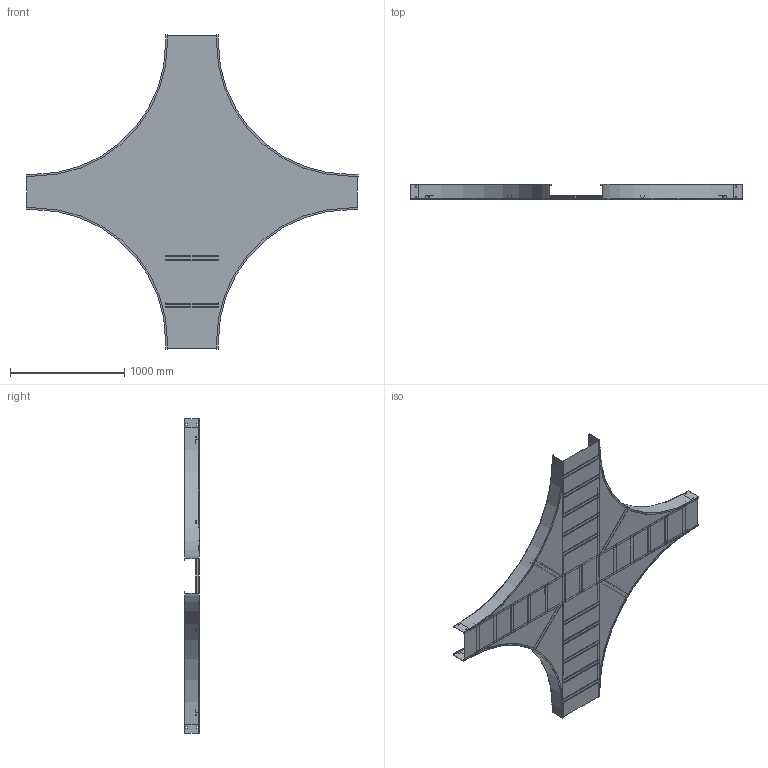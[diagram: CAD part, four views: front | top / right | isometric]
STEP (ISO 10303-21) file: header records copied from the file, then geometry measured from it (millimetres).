
FILE_DESCRIPTION((''),'2;1');
FILE_NAME('AUF51218SEX48_ASM','2010-02-02T',('erouzier'),(''),'PRO/ENGINEER BY PARAMETRIC TECHNOLOGY CORPORATION, 2008510','PRO/ENGINEER BY PARAMETRIC TECHNOLOGY CORPORATION, 2008510','');
FILE_SCHEMA(('CONFIG_CONTROL_DESIGN'));
Length unit declared in the file: inch
Products named in the file (27): CDS001320-5-90-45-I; CDS002159L12_AF19; CDS002159L12_AF20; CDS002159L12_AF21; CDS002159L12_AF22; CDS002159L12_AF28; CDS002159L12_AF30; CDS002159L12_AF23; CDS002159L12_AF24; CDS002159L12_AF25; CDS002159L12_AF27; CDS002159L12_AF29; CDS002159L12_AF31; CDS002159L12_AF26; CDS000495_GEN_AF18; CDS000495_GEN_AF19; CDS000495_GEN_AF22; CDS000495_GEN_AF23; CDS000495_GEN_AF20; CDS000495_GEN_AF21; CDS002159L24_AF6; CDS002159L24_AF7; CDS002159L24_AF4; CDS002159L24_AF5; CDS002159L18; CDS005034-12-48-18; AUF51218SEX48_ASM
Assembly tree (38 placements, depth 2):
  AUF51218SEX48_ASM
    CDS001320-5-90-45-I  x4
    CDS002159L12_AF19
    CDS002159L12_AF20
    CDS002159L12_AF21
    CDS002159L12_AF22
    CDS002159L12_AF28
    CDS002159L12_AF30
    CDS002159L12_AF23
    CDS002159L12_AF24
    CDS002159L12_AF25
    CDS002159L12_AF27
    CDS002159L12_AF29
    CDS002159L12_AF31
    CDS002159L12_AF26
    CDS000495_GEN_AF18
    CDS000495_GEN_AF19
    CDS000495_GEN_AF22
    CDS000495_GEN_AF23
    CDS000495_GEN_AF20
    CDS000495_GEN_AF21
    CDS002159L24_AF6
    CDS002159L24_AF7
    CDS002159L24_AF4
    CDS002159L24_AF5
    CDS002159L18  x10
    CDS005034-12-48-18
Bounding box: 2900.68 x 129.03 x 2748.28 mm (x, y, z)
Volume: 9001931 mm3; surface area: 12439813.5 mm2
Topology: 38 solids, 38 shells, 1024 faces, 2844 edges, 1896 vertices
Faces by surface type: plane 707, cylinder 317
Entity records: 21662 total; most frequent: CARTESIAN_POINT 4029, ORIENTED_EDGE 3600, DIRECTION 3558, EDGE_CURVE 1800, VECTOR 1388, LINE 1388, VERTEX_POINT 1200, AXIS2_PLACEMENT_3D 1085
